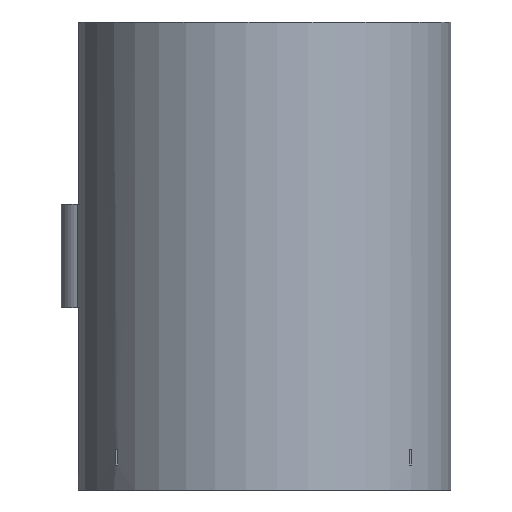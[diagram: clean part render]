
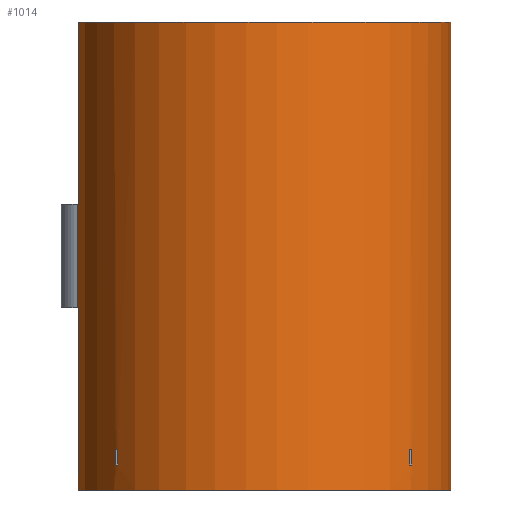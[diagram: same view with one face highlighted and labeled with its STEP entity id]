
A CAD part, left-side view. The second image highlights one B-rep face of the part: STEP entity #1014.
In plain terms, the highlighted cylindrical face has radius 12 mm (diameter 24 mm), a partial arc.
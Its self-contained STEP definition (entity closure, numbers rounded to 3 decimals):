
#16=FACE_BOUND('',#170,.T.);
#17=FACE_BOUND('',#171,.T.);
#111=FACE_OUTER_BOUND('',#169,.T.);
#169=EDGE_LOOP('',(#898,#899,#900,#901,#902,#903,#904,#905));
#170=EDGE_LOOP('',(#906,#907,#908,#909));
#171=EDGE_LOOP('',(#910,#911,#912,#913));
#221=LINE('',#1613,#311);
#223=LINE('',#1616,#313);
#225=LINE('',#1619,#315);
#226=LINE('',#1621,#316);
#265=LINE('',#1740,#355);
#266=LINE('',#1751,#356);
#267=LINE('',#1755,#357);
#268=LINE('',#1758,#358);
#311=VECTOR('',#1281,10.);
#313=VECTOR('',#1285,10.);
#315=VECTOR('',#1289,10.);
#316=VECTOR('',#1292,10.);
#355=VECTOR('',#1413,10.);
#356=VECTOR('',#1426,10.);
#357=VECTOR('',#1429,10.);
#358=VECTOR('',#1432,10.);
#369=CIRCLE('',#1048,12.);
#378=CIRCLE('',#1070,12.);
#379=CIRCLE('',#1072,12.);
#380=CIRCLE('',#1074,12.);
#381=CIRCLE('',#1076,12.);
#405=CIRCLE('',#1127,12.);
#406=CIRCLE('',#1128,12.);
#407=CIRCLE('',#1129,12.);
#432=VERTEX_POINT('',#1520);
#433=VERTEX_POINT('',#1522);
#448=VERTEX_POINT('',#1585);
#449=VERTEX_POINT('',#1586);
#451=VERTEX_POINT('',#1592);
#452=VERTEX_POINT('',#1593);
#454=VERTEX_POINT('',#1599);
#455=VERTEX_POINT('',#1600);
#457=VERTEX_POINT('',#1606);
#458=VERTEX_POINT('',#1607);
#498=VERTEX_POINT('',#1739);
#501=VERTEX_POINT('',#1748);
#502=VERTEX_POINT('',#1750);
#503=VERTEX_POINT('',#1752);
#504=VERTEX_POINT('',#1754);
#505=VERTEX_POINT('',#1756);
#534=EDGE_CURVE('',#433,#432,#369,.T.);
#561=EDGE_CURVE('',#448,#449,#378,.T.);
#564=EDGE_CURVE('',#451,#452,#379,.T.);
#567=EDGE_CURVE('',#454,#455,#380,.T.);
#570=EDGE_CURVE('',#457,#458,#381,.T.);
#573=EDGE_CURVE('',#458,#448,#221,.T.);
#575=EDGE_CURVE('',#452,#454,#223,.T.);
#577=EDGE_CURVE('',#455,#451,#225,.T.);
#578=EDGE_CURVE('',#449,#457,#226,.T.);
#637=EDGE_CURVE('',#498,#433,#265,.T.);
#641=EDGE_CURVE('',#501,#498,#405,.T.);
#642=EDGE_CURVE('',#432,#502,#266,.T.);
#643=EDGE_CURVE('',#503,#502,#406,.T.);
#644=EDGE_CURVE('',#503,#504,#267,.T.);
#645=EDGE_CURVE('',#504,#505,#407,.T.);
#646=EDGE_CURVE('',#505,#501,#268,.T.);
#898=ORIENTED_EDGE('',*,*,#641,.T.);
#899=ORIENTED_EDGE('',*,*,#637,.T.);
#900=ORIENTED_EDGE('',*,*,#534,.T.);
#901=ORIENTED_EDGE('',*,*,#642,.T.);
#902=ORIENTED_EDGE('',*,*,#643,.F.);
#903=ORIENTED_EDGE('',*,*,#644,.T.);
#904=ORIENTED_EDGE('',*,*,#645,.T.);
#905=ORIENTED_EDGE('',*,*,#646,.T.);
#906=ORIENTED_EDGE('',*,*,#575,.T.);
#907=ORIENTED_EDGE('',*,*,#567,.T.);
#908=ORIENTED_EDGE('',*,*,#577,.T.);
#909=ORIENTED_EDGE('',*,*,#564,.T.);
#910=ORIENTED_EDGE('',*,*,#573,.T.);
#911=ORIENTED_EDGE('',*,*,#561,.T.);
#912=ORIENTED_EDGE('',*,*,#578,.T.);
#913=ORIENTED_EDGE('',*,*,#570,.T.);
#961=CYLINDRICAL_SURFACE('',#1126,12.);
#1014=ADVANCED_FACE('',(#111,#16,#17),#961,.T.);
#1048=AXIS2_PLACEMENT_3D('',#1523,#1197,#1198);
#1070=AXIS2_PLACEMENT_3D('',#1587,#1257,#1258);
#1072=AXIS2_PLACEMENT_3D('',#1594,#1263,#1264);
#1074=AXIS2_PLACEMENT_3D('',#1601,#1269,#1270);
#1076=AXIS2_PLACEMENT_3D('',#1608,#1275,#1276);
#1126=AXIS2_PLACEMENT_3D('',#1747,#1422,#1423);
#1127=AXIS2_PLACEMENT_3D('',#1749,#1424,#1425);
#1128=AXIS2_PLACEMENT_3D('',#1753,#1427,#1428);
#1129=AXIS2_PLACEMENT_3D('',#1757,#1430,#1431);
#1197=DIRECTION('center_axis',(0.,0.,1.));
#1198=DIRECTION('ref_axis',(0.,1.,0.));
#1257=DIRECTION('center_axis',(0.,0.,-1.));
#1258=DIRECTION('ref_axis',(0.,1.,0.));
#1263=DIRECTION('center_axis',(0.,0.,-1.));
#1264=DIRECTION('ref_axis',(0.,1.,0.));
#1269=DIRECTION('center_axis',(0.,0.,1.));
#1270=DIRECTION('ref_axis',(0.,1.,0.));
#1275=DIRECTION('center_axis',(0.,0.,1.));
#1276=DIRECTION('ref_axis',(0.,1.,0.));
#1281=DIRECTION('',(0.,0.,-1.));
#1285=DIRECTION('',(0.,0.,1.));
#1289=DIRECTION('',(0.,0.,-1.));
#1292=DIRECTION('',(0.,0.,1.));
#1413=DIRECTION('',(0.,0.,-1.));
#1422=DIRECTION('center_axis',(0.,0.,1.));
#1423=DIRECTION('ref_axis',(0.,1.,0.));
#1424=DIRECTION('center_axis',(0.,0.,1.));
#1425=DIRECTION('ref_axis',(0.,1.,0.));
#1426=DIRECTION('',(0.,0.,1.));
#1427=DIRECTION('center_axis',(0.,0.,1.));
#1428=DIRECTION('ref_axis',(0.,1.,0.));
#1429=DIRECTION('',(0.,0.,-1.));
#1430=DIRECTION('center_axis',(0.,0.,-1.));
#1431=DIRECTION('ref_axis',(0.,1.,0.));
#1432=DIRECTION('',(0.,0.,-1.));
#1520=CARTESIAN_POINT('',(0.,-12.,0.));
#1522=CARTESIAN_POINT('',(-1.709,11.878,0.));
#1523=CARTESIAN_POINT('Origin',(0.,0.,0.));
#1585=CARTESIAN_POINT('',(-7.5,9.367,1.6));
#1586=CARTESIAN_POINT('',(-7.331,9.5,1.6));
#1587=CARTESIAN_POINT('Origin',(0.,0.,1.6));
#1592=CARTESIAN_POINT('',(-7.331,-9.5,1.6));
#1593=CARTESIAN_POINT('',(-7.5,-9.367,1.6));
#1594=CARTESIAN_POINT('Origin',(0.,0.,1.6));
#1599=CARTESIAN_POINT('',(-7.5,-9.367,2.6));
#1600=CARTESIAN_POINT('',(-7.331,-9.5,2.6));
#1601=CARTESIAN_POINT('Origin',(0.,0.,2.6));
#1606=CARTESIAN_POINT('',(-7.331,9.5,2.6));
#1607=CARTESIAN_POINT('',(-7.5,9.367,2.6));
#1608=CARTESIAN_POINT('Origin',(0.,0.,2.6));
#1613=CARTESIAN_POINT('',(-7.5,9.367,0.));
#1616=CARTESIAN_POINT('',(-7.5,-9.367,0.));
#1619=CARTESIAN_POINT('',(-7.331,-9.5,0.));
#1621=CARTESIAN_POINT('',(-7.331,9.5,0.));
#1739=CARTESIAN_POINT('',(-1.709,11.878,11.667));
#1740=CARTESIAN_POINT('',(-1.709,11.878,0.));
#1747=CARTESIAN_POINT('Origin',(0.,0.,0.));
#1748=CARTESIAN_POINT('',(-1.442,11.913,11.667));
#1749=CARTESIAN_POINT('Origin',(0.,0.,11.667));
#1750=CARTESIAN_POINT('',(0.,-12.,30.));
#1751=CARTESIAN_POINT('',(0.,-12.,0.));
#1752=CARTESIAN_POINT('',(-1.709,11.878,30.));
#1753=CARTESIAN_POINT('Origin',(0.,0.,30.));
#1754=CARTESIAN_POINT('',(-1.709,11.878,18.333));
#1755=CARTESIAN_POINT('',(-1.709,11.878,30.));
#1756=CARTESIAN_POINT('',(-1.442,11.913,18.333));
#1757=CARTESIAN_POINT('Origin',(0.,0.,18.333));
#1758=CARTESIAN_POINT('',(-1.442,11.913,15.));
